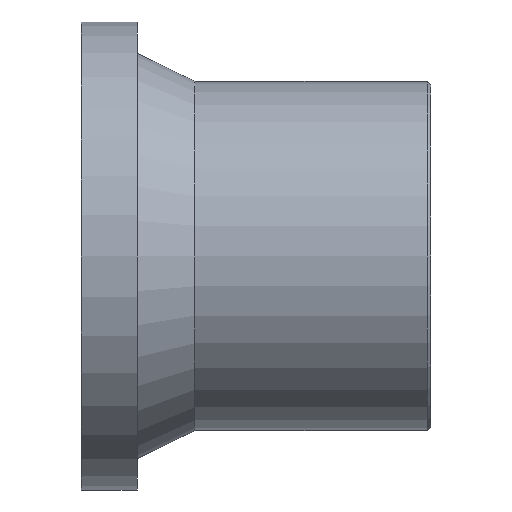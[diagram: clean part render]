
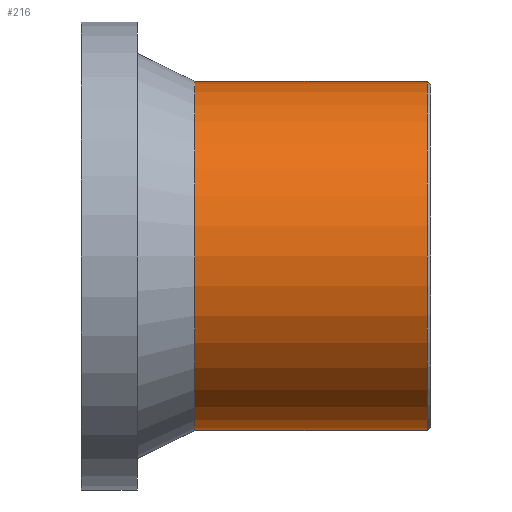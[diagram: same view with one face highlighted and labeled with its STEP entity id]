
A CAD part, front view. The second image highlights one B-rep face of the part: STEP entity #216.
In plain terms, the highlighted cylindrical face has radius 100 mm (diameter 200 mm), a full revolution.
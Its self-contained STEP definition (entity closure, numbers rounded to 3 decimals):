
#24=CYLINDRICAL_SURFACE('',#240,100.);
#34=FACE_BOUND('',#76,.T.);
#54=FACE_OUTER_BOUND('',#75,.T.);
#75=EDGE_LOOP('',(#175));
#76=EDGE_LOOP('',(#176));
#113=CIRCLE('',#238,100.);
#115=CIRCLE('',#241,100.);
#133=VERTEX_POINT('',#361);
#135=VERTEX_POINT('',#366);
#153=EDGE_CURVE('',#133,#133,#113,.T.);
#155=EDGE_CURVE('',#135,#135,#115,.T.);
#175=ORIENTED_EDGE('',*,*,#155,.T.);
#176=ORIENTED_EDGE('',*,*,#153,.F.);
#216=ADVANCED_FACE('',(#54,#34),#24,.T.);
#238=AXIS2_PLACEMENT_3D('',#362,#281,#282);
#240=AXIS2_PLACEMENT_3D('',#365,#285,#286);
#241=AXIS2_PLACEMENT_3D('',#367,#287,#288);
#281=DIRECTION('center_axis',(1.,0.,0.));
#282=DIRECTION('ref_axis',(0.,-1.,0.));
#285=DIRECTION('center_axis',(1.,0.,0.));
#286=DIRECTION('ref_axis',(0.,1.,0.));
#287=DIRECTION('center_axis',(1.,0.,0.));
#288=DIRECTION('ref_axis',(0.,0.,-1.));
#361=CARTESIAN_POINT('',(-2.,100.,0.));
#362=CARTESIAN_POINT('Origin',(-2.,0.,
0.));
#365=CARTESIAN_POINT('Origin',(-67.5,0.,0.));
#366=CARTESIAN_POINT('',(-135.,100.,0.));
#367=CARTESIAN_POINT('Origin',(-135.,0.,0.));
